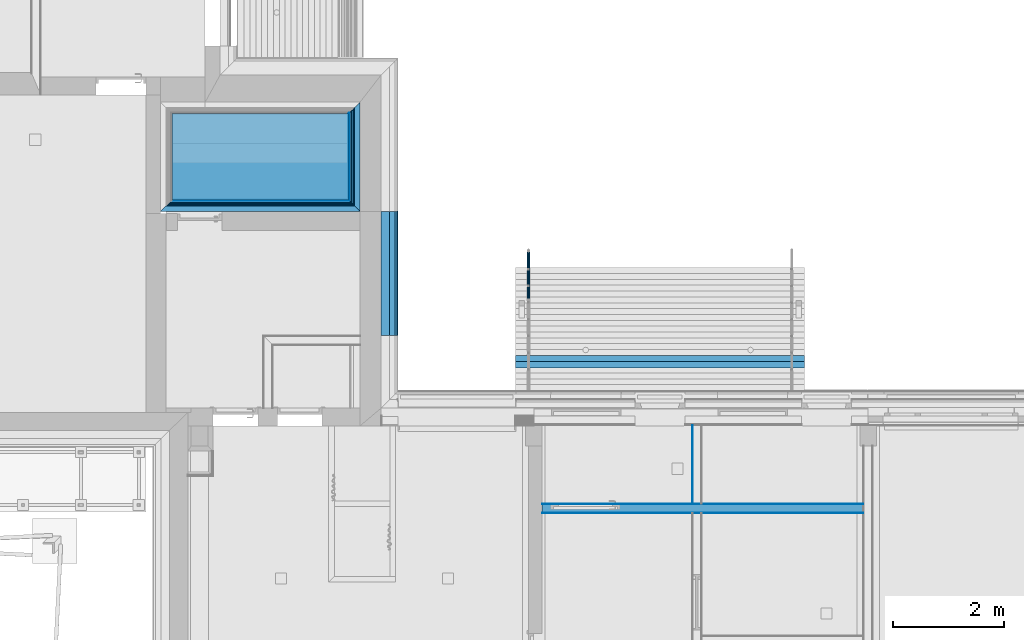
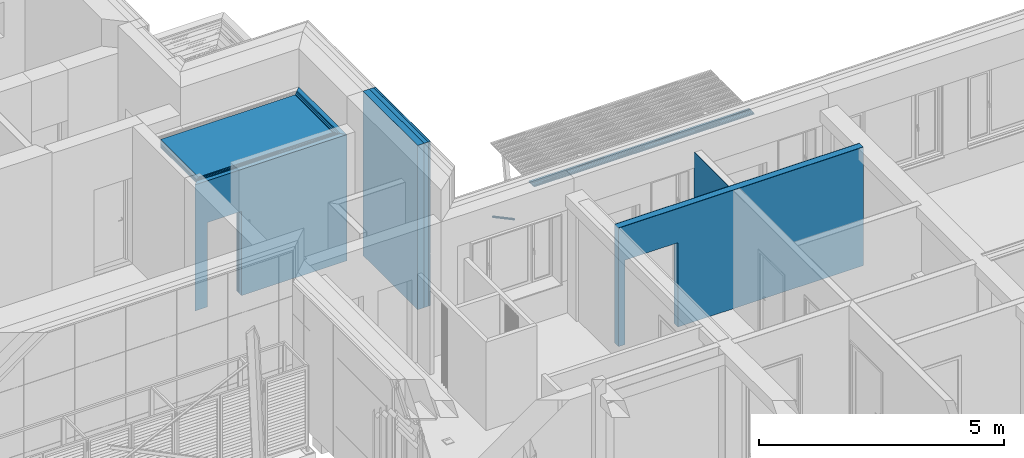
# One storey, part 34 of 418: 26 building element parts, 6 openings, 9 elements without a shape of their own.
"""IFC2X3 building model written with IfcOpenShell, lengths in millimetres."""

from ifc_helpers import new_model, entity, si_unit, converted_unit, derived_unit, money_unit, direction, frame, origin_with_axes, origin_2d_with_axis, place, context, subcontext, project, spatial, polyline, rectangle, outline, extrude, faceted_brep, source, transform, mapped, material, type_object, element, aggregate, save


model = new_model("IFC2X3")

# Units and contexts
model_context = context("Model", 3, precision=0.01, world=origin_with_axes(), true_north=direction((0.0, 1.0)))
body_context = subcontext(model_context, "Body", "Model", "MODEL_VIEW")
ifc_project = project(units=[si_unit("LENGTHUNIT", "METRE", prefix="MILLI"), si_unit("AREAUNIT", "SQUARE_METRE"), si_unit("VOLUMEUNIT", "CUBIC_METRE"), converted_unit("PLANEANGLEUNIT", "DEGREE", entity("IfcPlaneAngleMeasure", 0.0174532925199), si_unit("PLANEANGLEUNIT", "RADIAN"), dimensions=[0, 0, 0, 0, 0, 0, 0]), si_unit("SOLIDANGLEUNIT", "STERADIAN"), money_unit("EUR"), converted_unit("TIMEUNIT", "Year", entity("IfcTimeMeasure", 31556926.0), si_unit("TIMEUNIT", "SECOND"), dimensions=[0, 0, 1, 0, 0, 0, 0]), si_unit("MASSUNIT", "GRAM", prefix="KILO"), si_unit("THERMODYNAMICTEMPERATUREUNIT", "DEGREE_CELSIUS"), si_unit("LUMINOUSINTENSITYUNIT", "LUMEN"), si_unit("ENERGYUNIT", "JOULE", prefix="MEGA"), derived_unit("THERMALCONDUCTANCEUNIT", [(si_unit("POWERUNIT", "WATT"), 1), (si_unit("LENGTHUNIT", "METRE"), -1), (si_unit("THERMODYNAMICTEMPERATUREUNIT", "KELVIN"), -1)]), derived_unit("SPECIFICHEATCAPACITYUNIT", [(si_unit("ENERGYUNIT", "JOULE"), 1), (si_unit("MASSUNIT", "GRAM", prefix="KILO"), -1), (si_unit("THERMODYNAMICTEMPERATUREUNIT", "KELVIN"), -1)]), derived_unit("MASSDENSITYUNIT", [(si_unit("MASSUNIT", "GRAM", prefix="KILO"), 1), (si_unit("VOLUMEUNIT", "CUBIC_METRE"), -1)])], contexts=[model_context])

# Site, building, storey
site_placement = place(None, origin_with_axes())
site = spatial("IfcSite", under=ifc_project, at=site_placement, Name="Paldiski mnt 245/1, Tallinn, Harjumaa", CompositionType="COMPLEX")
building_placement = place(site_placement, origin_with_axes())
building = spatial("IfcBuilding", under=site, at=building_placement, Name="RKAS Hoone üldnimetus (kasutust iseloomustav) -> IFC Project Manager -> SOLIBRI", CompositionType="ELEMENT")
storey_placement = place(building_placement, origin_with_axes())
storey = spatial("IfcBuildingStorey", under=building, at=storey_placement, Name="Esimene korrus", CompositionType="ELEMENT", Elevation=0.0)

# Proxies, building element part
building_element_proxy_type_1 = type_object("IfcBuildingElementProxyType", Name="Railing Type", PredefinedType="NOTDEFINED")
proxy_1_placement = place(storey_placement, frame((-41536.0, 460.000000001, -500.846302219), z_axis=(0.0, 0.0, 1.0), x_axis=(1.0, 0.0, 0.0)))
proxy_1 = element("IfcBuildingElementProxy", 1, at=proxy_1_placement, inside=storey, type_object=building_element_proxy_type_1, Name="Trepipiire")
building_element_proxy_type_2 = type_object("IfcBuildingElementProxyType", Name="IfcBuildingElementProxy", PredefinedType="NOTDEFINED")
proxy_2_placement = place(proxy_1_placement, frame((0.0, 2144.92080789, 944.098300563), z_axis=(0.0, 0.0, 1.0), x_axis=(1.0, 0.0, 0.0)))
proxy_2 = element("IfcBuildingElementProxy", 2, at=proxy_2_placement, type_object=building_element_proxy_type_2, Name="ÜL PIIRE - 001")
aggregate(proxy_1, [proxy_2])
ifc_material_1 = material(Name="RAL7016")
shared_shape = source(origin_with_axes(), body_context, "Body", "Brep", [
    faceted_brep([(20.1885589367, 36.5444606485, 948.101991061), (20.5, 38.2216041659, 951.241939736), (20.5, 887.611065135, 497.556807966), (20.1885589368, 885.812724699, 494.481594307), (24.6201938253, 36.1763071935, 947.412734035), (25.0, 38.2216041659, 951.241939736), (24.6201938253, 40.2669011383, 955.071145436), (23.4923155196, 42.2500527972, 958.78400266), (21.6506350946, 44.1108020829, 962.267698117), (19.151111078, 45.79261107, 965.416381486), (16.0696902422, 47.2443788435, 968.134381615), (12.5, 48.4219941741, 970.339113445), (8.55050358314, 49.2896758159, 971.963587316), (4.34120444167, 49.8210597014, 972.95844441), (0.0, 50.0, 973.293456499), (-4.34120444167, 49.8210597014, 972.95844441), (-8.55050358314, 49.2896758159, 971.963587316), (-12.5, 48.4219941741, 970.339113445), (-16.0696902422, 47.2443788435, 968.134381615), (-19.151111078, 45.79261107, 965.416381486), (-21.6506350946, 44.1108020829, 962.267698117), (-23.4923155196, 42.2500527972, 958.78400266), (-24.6201938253, 40.2669011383, 955.071145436), (-25.0, 38.2216041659, 951.241939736), (-24.6201938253, 36.1763071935, 947.412734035), (-23.4923155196, 34.1931555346, 943.699876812), (-21.6506350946, 32.3324062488, 940.216181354), (-19.151111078, 30.6505972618, 937.067497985), (-16.0696902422, 29.1988294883, 934.349497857), (-12.5, 28.0212141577, 932.144766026), (-8.55050358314, 27.1535325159, 930.520292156), (-4.34120444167, 26.6221486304, 929.525435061), (0.0, 26.4432083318, 929.190422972), (4.34120444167, 26.6221486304, 929.525435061), (8.55050358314, 27.1535325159, 930.520292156), (12.5, 28.0212141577, 932.144766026), (16.0696902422, 29.1988294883, 934.349497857), (19.151111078, 30.6505972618, 937.067497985), (21.6506350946, 32.3324062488, 940.216181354), (23.4923155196, 34.1931555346, 943.699876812), (20.1885589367, 39.8987476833, 954.38188841), (19.2636987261, 34.9182762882, 945.057448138), (17.7535207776, 33.3924618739, 942.200817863), (15.7039110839, 32.0133785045, 939.6188975), (13.1771459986, 30.8229289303, 937.390137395), (10.25, 29.8572843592, 935.582257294), (7.01141293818, 29.1457854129, 934.25018872), (3.55978764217, 28.7100506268, 933.434405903), (0.0, 28.5633195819, 933.159695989), (-3.55978764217, 28.7100506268, 933.434405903), (-7.01141293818, 29.1457854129, 934.25018872), (-10.25, 29.8572843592, 935.582257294), (-13.1771459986, 30.8229289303, 937.390137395), (-15.7039110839, 32.0133785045, 939.6188975), (-17.7535207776, 33.3924618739, 942.200817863), (-19.2636987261, 34.9182762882, 945.057448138), (-20.1885589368, 36.5444606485, 948.101991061), (-20.5, 38.2216041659, 951.241939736), (-20.1885589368, 39.8987476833, 954.38188841), (-19.2636987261, 41.5249320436, 957.426431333), (-17.7535207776, 43.0507464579, 960.283061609), (-15.7039110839, 44.4298298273, 962.864981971), (-13.1771459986, 45.6202794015, 965.093742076), (-10.25, 46.5859239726, 966.901622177), (-7.01141293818, 47.2974229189, 968.233690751), (-3.55978764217, 47.733157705, 969.049473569), (0.0, 47.8798887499, 969.324183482), (3.55978764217, 47.733157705, 969.049473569), (7.01141293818, 47.2974229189, 968.233690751), (10.25, 46.5859239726, 966.901622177), (13.1771459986, 45.6202794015, 965.093742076), (15.7039110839, 44.4298298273, 962.864981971), (17.7535207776, 43.0507464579, 960.283061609), (19.2636987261, 41.5249320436, 957.426431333), (20.1885589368, 889.409405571, 500.632021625), (-21.6506350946, 881.296290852, 486.758363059), (-23.4923155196, 883.291505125, 490.170236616), (-24.6201938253, 885.417967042, 493.806547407), (-25.0, 887.611065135, 497.556807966), (-24.6201938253, 889.804163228, 501.307068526), (-23.4923155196, 891.930625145, 504.943379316), (-21.6506350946, 893.925839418, 508.355252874), (-19.1511110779, 895.729182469, 511.439021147), (-16.0696902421, 897.285860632, 514.100985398), (-12.5, 898.548575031, 516.260263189), (-8.55050358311, 899.478958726, 517.851245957), (-4.34120444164, 900.048742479, 518.825592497), (0.0, 900.2406137, 519.153697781), (4.3412044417, 900.048742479, 518.825592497), (8.55050358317, 899.478958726, 517.851245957), (12.5, 898.548575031, 516.260263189), (16.0696902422, 897.285860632, 514.100985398), (19.151111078, 895.729182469, 511.439021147), (21.6506350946, 893.925839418, 508.355252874), (23.4923155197, 891.930625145, 504.943379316), (24.6201938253, 889.804163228, 501.307068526), (25.0, 887.611065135, 497.556807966), (24.6201938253, 885.417967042, 493.806547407), (23.4923155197, 883.291505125, 490.170236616), (21.6506350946, 881.296290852, 486.758363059), (19.151111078, 879.492947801, 483.674594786), (16.0696902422, 877.936269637, 481.012630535), (12.5, 876.673555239, 478.853352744), (8.55050358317, 875.743171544, 477.262369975), (4.3412044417, 875.173387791, 476.288023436), (0.0, 874.98151657, 475.959918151), (-4.34120444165, 875.173387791, 476.288023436), (-8.55050358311, 875.743171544, 477.262369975), (-12.5, 876.673555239, 478.853352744), (-16.0696902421, 877.936269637, 481.012630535), (-19.1511110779, 879.492947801, 483.674594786), (-17.7535207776, 892.789180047, 506.41153279), (-19.2636987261, 891.153104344, 503.613796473), (-20.1885589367, 889.409405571, 500.632021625), (-20.5, 887.611065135, 497.556807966), (-20.1885589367, 885.812724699, 494.481594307), (-19.2636987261, 884.069025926, 491.499819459), (-17.7535207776, 882.432950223, 488.702083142), (-15.7039110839, 880.954208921, 486.173393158), (-13.1771459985, 879.677732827, 483.990582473), (-10.25, 878.64230702, 482.219974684), (-7.01141293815, 877.879392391, 480.915368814), (-3.55978764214, 877.412169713, 480.116404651), (0.0, 877.254835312, 479.847358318), (3.5597876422, 877.412169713, 480.116404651), (7.0114129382, 877.879392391, 480.915368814), (10.25, 878.64230702, 482.219974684), (13.1771459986, 879.677732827, 483.990582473), (15.703911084, 880.954208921, 486.173393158), (17.7535207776, 882.432950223, 488.702083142), (19.2636987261, 884.069025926, 491.499819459), (19.2636987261, 891.153104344, 503.613796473), (17.7535207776, 892.789180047, 506.41153279), (15.703911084, 894.267921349, 508.940222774), (13.1771459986, 895.544397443, 511.12303346), (10.25, 896.57982325, 512.893641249), (7.0114129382, 897.342737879, 514.198247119), (3.5597876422, 897.809960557, 514.997211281), (0.0, 897.967294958, 515.266257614), (-3.55978764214, 897.809960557, 514.997211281), (-7.01141293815, 897.342737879, 514.198247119), (-10.25, 896.57982325, 512.893641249), (-13.1771459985, 895.544397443, 511.12303346), (-15.7039110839, 894.267921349, 508.940222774)], [[[0, 1, 2, 3]], [[4, 5, 6, 7, 8, 9, 10, 11, 12, 13, 14, 15, 16, 17, 18, 19, 20, 21, 22, 23, 24, 25, 26, 27, 28, 29, 30, 31, 32, 33, 34, 35, 36, 37, 38, 39], [40, 1, 0, 41, 42, 43, 44, 45, 46, 47, 48, 49, 50, 51, 52, 53, 54, 55, 56, 57, 58, 59, 60, 61, 62, 63, 64, 65, 66, 67, 68, 69, 70, 71, 72, 73]], [[1, 40, 74, 2]], [[75, 76, 77, 78, 79, 80, 81, 82, 83, 84, 85, 86, 87, 88, 89, 90, 91, 92, 93, 94, 95, 96, 97, 98, 99, 100, 101, 102, 103, 104, 105, 106, 107, 108, 109, 110], [111, 112, 113, 114, 115, 116, 117, 118, 119, 120, 121, 122, 123, 124, 125, 126, 127, 128, 129, 130, 3, 2, 74, 131, 132, 133, 134, 135, 136, 137, 138, 139, 140, 141, 142, 143]], [[41, 0, 3, 130]], [[5, 4, 97, 96]], [[6, 5, 96, 95]], [[7, 6, 95, 94]], [[8, 7, 94, 93]], [[9, 8, 93, 92]], [[10, 9, 92, 91]], [[11, 10, 91, 90]], [[12, 11, 90, 89]], [[13, 12, 89, 88]], [[14, 13, 88, 87]], [[15, 14, 87, 86]], [[16, 15, 86, 85]], [[17, 16, 85, 84]], [[18, 17, 84, 83]], [[19, 18, 83, 82]], [[20, 19, 82, 81]], [[21, 20, 81, 80]], [[22, 21, 80, 79]], [[23, 22, 79, 78]], [[24, 23, 78, 77]], [[25, 24, 77, 76]], [[26, 25, 76, 75]], [[27, 26, 75, 110]], [[28, 27, 110, 109]], [[29, 28, 109, 108]], [[30, 29, 108, 107]], [[31, 30, 107, 106]], [[32, 31, 106, 105]], [[33, 32, 105, 104]], [[34, 33, 104, 103]], [[35, 34, 103, 102]], [[36, 35, 102, 101]], [[37, 36, 101, 100]], [[38, 37, 100, 99]], [[39, 38, 99, 98]], [[4, 39, 98, 97]], [[42, 41, 130, 129]], [[43, 42, 129, 128]], [[44, 43, 128, 127]], [[45, 44, 127, 126]], [[46, 45, 126, 125]], [[47, 46, 125, 124]], [[48, 47, 124, 123]], [[49, 48, 123, 122]], [[50, 49, 122, 121]], [[51, 50, 121, 120]], [[52, 51, 120, 119]], [[53, 52, 119, 118]], [[54, 53, 118, 117]], [[55, 54, 117, 116]], [[56, 55, 116, 115]], [[57, 56, 115, 114]], [[58, 57, 114, 113]], [[59, 58, 113, 112]], [[60, 59, 112, 111]], [[61, 60, 111, 143]], [[62, 61, 143, 142]], [[63, 62, 142, 141]], [[64, 63, 141, 140]], [[65, 64, 140, 139]], [[66, 65, 139, 138]], [[67, 66, 138, 137]], [[68, 67, 137, 136]], [[69, 68, 136, 135]], [[70, 69, 135, 134]], [[71, 70, 134, 133]], [[72, 71, 133, 132]], [[73, 72, 132, 131]], [[40, 73, 131, 74]]]),
])
building_element_part_1_placement = place(proxy_2_placement, origin_with_axes())
building_element_part_1 = element("IfcBuildingElementPart", 3, at=building_element_part_1_placement, material=ifc_material_1, Name="RAL7016", context=body_context, shape_type="MappedRepresentation", body=[
    mapped(shared_shape, transform((0.0, -475.12030685, -463.251998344))),
])
aggregate(proxy_2, [building_element_part_1])

# Wall, opening, building element parts
wall_type_1 = type_object("IfcWallType", Name="SS-04 170", PredefinedType="NOTDEFINED")
wall_1_placement = place(storey_placement, frame((-35440.0, -1675.0, 0.0), z_axis=(0.0, 0.0, 1.0), x_axis=(-1.0, 0.0, 0.0)))
wall_1 = element("IfcWall", 4, at=wall_1_placement, inside=storey, type_object=wall_type_1, Name="SS-04")
opening_1_placement = place(wall_1_placement, frame((5075.00000975, -1.14130926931e-10, 0.0), z_axis=(0.0, 0.0, 1.0), x_axis=(1.0, 0.0, 0.0)))
element("IfcOpeningElement", 5, at=opening_1_placement, cuts=wall_1, Name="SU-01p", context=body_context, shape_type="SweptSolid", body=[
    extrude(rectangle(XDim=1250.0, YDim=2100.0, at=origin_2d_with_axis()), frame((0.0, -64.9999999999, 1050.0), z_axis=(0.0, -1.0, 0.0), x_axis=(1.0, 0.0, 0.0)), (0.0, 0.0, 1.0), 275.0),
    extrude(rectangle(XDim=1250.0, YDim=2100.0, at=origin_2d_with_axis()), frame((0.0, -64.9999999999, 1050.0), z_axis=(0.0, 1.0, 0.0), x_axis=(1.0, 0.0, 0.0)), (0.0, 0.0, 1.0), 235.0),
])
ifc_material_2 = material(Name="Krohv")
building_element_part_2_placement = place(wall_1_placement, origin_with_axes())
building_element_part_2 = element("IfcBuildingElementPart", 6, at=building_element_part_2_placement, material=ifc_material_2, Name="Krohv", context=body_context, shape_type="SweptSolid", body=[
    extrude(outline(polyline([(85.0, -10.0), (5850.0, -10.0), (5850.0, 0.0), (85.0, 0.0), (85.0, -10.0)])), origin_with_axes(), (0.0, 0.0, 1.0), 2950.0),
])
ifc_material_3 = material(Name="FIBO 5")
building_element_part_3_placement = place(wall_1_placement, origin_with_axes())
building_element_part_3 = element("IfcBuildingElementPart", 7, at=building_element_part_3_placement, material=ifc_material_3, Name="FIBO 5", context=body_context, shape_type="SweptSolid", body=[
    extrude(outline(polyline([(85.0, -160.0), (5850.0, -160.0), (5850.0, -10.0), (85.0, -10.0), (85.0, -160.0)])), origin_with_axes(), (0.0, 0.0, 1.0), 2950.0),
])
building_element_part_4_placement = place(wall_1_placement, origin_with_axes())
building_element_part_4 = element("IfcBuildingElementPart", 8, at=building_element_part_4_placement, material=ifc_material_2, Name="Krohv", context=body_context, shape_type="SweptSolid", body=[
    extrude(outline(polyline([(85.0, -170.0), (5850.0, -170.0), (5850.0, -160.0), (85.0, -160.0), (85.0, -170.0)])), origin_with_axes(), (0.0, 0.0, 1.0), 2950.0),
])
aggregate(wall_1, [building_element_part_2, building_element_part_3, building_element_part_4])

# Wall, building element part
wall_2_placement = place(storey_placement, frame((-38430.0000894, -99.9999999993, 0.0), z_axis=(0.0, 0.0, 1.0), x_axis=(0.0, -1.0, 0.0)))
wall_2 = element("IfcWall", 9, at=wall_2_placement, inside=storey, type_object=wall_type_1, Name="SS-04")
building_element_part_5_placement = place(wall_2_placement, origin_with_axes())
building_element_part_5 = element("IfcBuildingElementPart", 10, at=building_element_part_5_placement, material=ifc_material_2, Name="Krohv", context=body_context, shape_type="SweptSolid", body=[
    extrude(outline(polyline([(0.0, -170.0), (1405.0, -170.0), (1405.0, -160.0), (0.0, -160.0), (0.0, -170.0)])), origin_with_axes(), (0.0, 0.0, 1.0), 2950.0),
])
aggregate(wall_2, [building_element_part_5])

# Wall, openings, building element parts
wall_type_2 = type_object("IfcWallType", Name="VS-03M_uued_kihid 300", PredefinedType="NOTDEFINED")
wall_3_placement = place(storey_placement, frame((-44180.5504586, 1509.82872435, 0.0), z_axis=(0.0, 0.0, 1.0), x_axis=(0.0, 1.0, 0.0)))
wall_3 = element("IfcWall", 11, at=wall_3_placement, inside=storey, type_object=wall_type_2, Name="VS-03")
opening_2_placement = place(wall_3_placement, frame((1376.0, 0.0, 0.0), z_axis=(0.0, 0.0, 1.0), x_axis=(1.0, 0.0, 0.0)))
element("IfcOpeningElement", 12, at=opening_2_placement, cuts=wall_3, Name="Cembrit fassaadiplaadi vuuk", context=body_context, shape_type="SweptSolid", body=[
    extrude(outline(polyline([(-3.99999999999, 0.0), (4.00000000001, 0.0), (4.00000000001, 4090.0), (-3.99999999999, 4090.0), (-3.99999999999, 0.0)])), frame((0.0, -292.0, 0.0), z_axis=(0.0, 1.0, 0.0), x_axis=(-1.0, 0.0, 0.0)), (0.0, 0.0, -1.0), 308.0),
])
opening_3_placement = place(wall_3_placement, frame((176.0, 0.0, 0.0), z_axis=(0.0, 0.0, 1.0), x_axis=(1.0, 0.0, 0.0)))
element("IfcOpeningElement", 13, at=opening_3_placement, cuts=wall_3, Name="Cembrit fassaadiplaadi vuuk", context=body_context, shape_type="SweptSolid", body=[
    extrude(outline(polyline([(-3.99999999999, 0.0), (4.00000000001, 0.0), (4.00000000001, 4090.0), (-3.99999999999, 4090.0), (-3.99999999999, 0.0)])), frame((0.0, -292.0, 0.0), z_axis=(0.0, 1.0, 0.0), x_axis=(-1.0, 0.0, 0.0)), (0.0, 0.0, -1.0), 308.0),
])
opening_4_placement = place(wall_3_placement, frame((1880.08569722, 0.0, 2990.0), z_axis=(0.0, 0.0, 1.0), x_axis=(1.0, 0.0, 0.0)))
element("IfcOpeningElement", 14, at=opening_4_placement, cuts=wall_3, Name="Cembrit fassaadiplaadi vuuk", context=body_context, shape_type="SweptSolid", body=[
    extrude(outline(polyline([(-3099.91430278, 0.0), (3099.91430278, 0.0), (3099.91430278, 8.0), (-3099.91430278, 8.0), (-3099.91430278, 0.0)])), frame((0.0, -292.0, 0.0), z_axis=(0.0, 1.0, 0.0), x_axis=(-1.0, 0.0, 0.0)), (0.0, 0.0, -1.0), 308.0),
])
opening_5_placement = place(wall_3_placement, frame((1880.08568735, 0.0, 1298.0), z_axis=(0.0, 0.0, 1.0), x_axis=(1.0, 0.0, 0.0)))
element("IfcOpeningElement", 15, at=opening_5_placement, cuts=wall_3, Name="Cembrit fassaadiplaadi vuuk", context=body_context, shape_type="SweptSolid", body=[
    extrude(outline(polyline([(-3099.91431265, 0.0), (3099.91431265, 0.0), (3099.91431265, 8.0), (-3099.91431265, 8.0), (-3099.91431265, 0.0)])), frame((0.0, -292.0, 0.0), z_axis=(0.0, 1.0, 0.0), x_axis=(-1.0, 0.0, 0.0)), (0.0, 0.0, -1.0), 308.0),
])
ifc_material_4 = material(Name="Cembrit_C020")
building_element_part_6_placement = place(wall_3_placement, origin_with_axes())
building_element_part_6 = element("IfcBuildingElementPart", 16, at=building_element_part_6_placement, material=ifc_material_4, Name="Cembrit_C020", context=body_context, shape_type="SweptSolid", body=[
    extrude(outline(polyline([(0.0, -300.0), (2230.0, -300.0), (2230.0, -292.0), (0.0, -292.0), (0.0, -300.0)])), origin_with_axes(), (0.0, 0.0, 1.0), 4090.0),
])
ifc_material_5 = material(Name="VKR-06_Õhkvahe")
building_element_part_7_placement = place(wall_3_placement, origin_with_axes())
building_element_part_7 = element("IfcBuildingElementPart", 17, at=building_element_part_7_placement, material=ifc_material_5, Name="VKR-06_Õhkvahe", context=body_context, shape_type="SweptSolid", body=[
    extrude(outline(polyline([(0.0, -292.0), (2230.0, -292.0), (2230.0, -250.0), (0.0, -250.0), (0.0, -292.0)])), origin_with_axes(), (0.0, 0.0, 1.0), 4090.0),
])
ifc_material_6 = material(Name="Kingspan Kooltherm")
building_element_part_8_placement = place(wall_3_placement, origin_with_axes())
building_element_part_8 = element("IfcBuildingElementPart", 18, at=building_element_part_8_placement, material=ifc_material_6, Name="Kingspan Kooltherm", context=body_context, shape_type="SweptSolid", body=[
    extrude(outline(polyline([(0.0, -250.0), (2230.0, -250.0), (2230.0, -150.0), (0.0, -150.0), (0.0, -250.0)])), origin_with_axes(), (0.0, 0.0, 1.0), 4090.0),
])
building_element_part_9_placement = place(wall_3_placement, origin_with_axes())
building_element_part_9 = element("IfcBuildingElementPart", 19, at=building_element_part_9_placement, material=ifc_material_6, Name="Kingspan Kooltherm", context=body_context, shape_type="SweptSolid", body=[
    extrude(outline(polyline([(0.0, -150.0), (2230.0, -150.0), (2230.0, 0.0), (0.0, 0.0), (0.0, -150.0)])), origin_with_axes(), (0.0, 0.0, 1.0), 4090.0),
])
aggregate(wall_3, [building_element_part_6, building_element_part_7, building_element_part_8, building_element_part_9])

# Wall, opening, building element parts
wall_type_3 = type_object("IfcWallType", Name="SS-12 sisekihid 207", PredefinedType="NOTDEFINED")
wall_4_placement = place(storey_placement, frame((-47933.0, 3946.82872435, 0.0), z_axis=(0.0, 0.0, 1.0), x_axis=(1.0, 0.0, 0.0)))
wall_4 = element("IfcWall", 20, at=wall_4_placement, inside=storey, type_object=wall_type_3, Name="SS-12")
opening_6_placement = place(wall_4_placement, frame((493.0, 0.0, 0.0), z_axis=(0.0, 0.0, 1.0), x_axis=(1.0, 0.0, 0.0)))
element("IfcOpeningElement", 21, at=opening_6_placement, cuts=wall_4, Name="Siseuks", context=body_context, shape_type="SweptSolid", body=[
    extrude(rectangle(XDim=800.0, YDim=2100.0, at=origin_2d_with_axis()), frame((0.0, -180.0, 1050.0), z_axis=(0.0, -1.0, 0.0), x_axis=(1.0, 0.0, 0.0)), (0.0, 0.0, -1.0), 387.0),
    extrude(rectangle(XDim=800.0, YDim=2100.0, at=origin_2d_with_axis()), frame((0.0, -180.0, 1050.0), z_axis=(0.0, 1.0, 0.0), x_axis=(1.0, 0.0, 0.0)), (0.0, 0.0, -1.0), 387.0),
])
ifc_material_7 = material(Name="Isover Premium 33")
building_element_part_10_placement = place(wall_4_placement, origin_with_axes())
building_element_part_10 = element("IfcBuildingElementPart", 22, at=building_element_part_10_placement, material=ifc_material_7, Name="Isover Premium 33", context=body_context, shape_type="SweptSolid", body=[
    extrude(outline(polyline([(-207.0, -207.0), (3372.44954137, -207.0), (3272.44954137, -107.0), (-107.0, -107.0), (-207.0, -207.0)])), origin_with_axes(), (0.0, 0.0, 1.0), 3141.80696097),
])
ifc_material_8 = material(Name="Isover Sauna")
building_element_part_11_placement = place(wall_4_placement, origin_with_axes())
building_element_part_11 = element("IfcBuildingElementPart", 23, at=building_element_part_11_placement, material=ifc_material_8, Name="Isover Sauna", context=body_context, shape_type="SweptSolid", body=[
    extrude(outline(polyline([(-107.0, -107.0), (3272.44954137, -107.0), (3247.44954137, -82.0), (-82.0, -82.0), (-107.0, -107.0)])), origin_with_axes(), (0.0, 0.0, 1.0), 3141.80696097),
])
ifc_material_9 = material(Name="Õhkvahe/horisontpuitroov")
building_element_part_12_placement = place(wall_4_placement, origin_with_axes())
building_element_part_12 = element("IfcBuildingElementPart", 24, at=building_element_part_12_placement, material=ifc_material_9, Name="Õhkvahe/horisontpuitroov", context=body_context, shape_type="SweptSolid", body=[
    extrude(outline(polyline([(-82.0, -82.0), (3247.44954137, -82.0), (3215.44954137, -50.0), (-50.0, -50.0), (-82.0, -82.0)])), origin_with_axes(), (0.0, 0.0, 1.0), 3141.80696097),
])
ifc_material_10 = material(Name="Õhkvahe/vertpuitroov")
building_element_part_13_placement = place(wall_4_placement, origin_with_axes())
building_element_part_13 = element("IfcBuildingElementPart", 25, at=building_element_part_13_placement, material=ifc_material_10, Name="Õhkvahe/vertpuitroov", context=body_context, shape_type="SweptSolid", body=[
    extrude(outline(polyline([(-50.0, -50.0), (3215.44954137, -50.0), (3183.44954137, -18.0), (-18.0, -18.0), (-50.0, -50.0)])), origin_with_axes(), (0.0, 0.0, 1.0), 3141.80696097),
])
ifc_material_11 = material(Name="Sauna puitlaudis")
building_element_part_14_placement = place(wall_4_placement, origin_with_axes())
building_element_part_14 = element("IfcBuildingElementPart", 26, at=building_element_part_14_placement, material=ifc_material_11, Name="Sauna puitlaudis", context=body_context, shape_type="SweptSolid", body=[
    extrude(outline(polyline([(-18.0, -18.0), (3183.44954137, -18.0), (3165.44954137, 0.0), (0.0, 0.0), (-18.0, -18.0)])), origin_with_axes(), (0.0, 0.0, 1.0), 3141.80696097),
])
aggregate(wall_4, [building_element_part_10, building_element_part_11, building_element_part_12, building_element_part_13, building_element_part_14])

# Wall, building element parts
wall_type_4 = type_object("IfcWallType", Name="VS-07 sisekihid 207", PredefinedType="NOTDEFINED")
wall_5_placement = place(storey_placement, frame((-44767.5504586, 3946.82872435, 0.0), z_axis=(0.0, 0.0, 1.0), x_axis=(0.0, 1.0, 0.0)))
wall_5 = element("IfcWall", 27, at=wall_5_placement, inside=storey, type_object=wall_type_4, Name="VS-07")
building_element_part_15_placement = place(wall_5_placement, origin_with_axes())
building_element_part_15 = element("IfcBuildingElementPart", 28, at=building_element_part_15_placement, material=ifc_material_7, Name="Isover Premium 33", context=body_context, shape_type="SweptSolid", body=[
    extrude(outline(polyline([(-207.0, -207.0), (1753.17127565, -207.0), (1653.17127565, -107.0), (-107.0, -107.0), (-207.0, -207.0)])), origin_with_axes(), (0.0, 0.0, 1.0), 3141.80696097),
])
building_element_part_16_placement = place(wall_5_placement, origin_with_axes())
building_element_part_16 = element("IfcBuildingElementPart", 29, at=building_element_part_16_placement, material=ifc_material_8, Name="Isover Sauna", context=body_context, shape_type="SweptSolid", body=[
    extrude(outline(polyline([(-107.0, -107.0), (1653.17127565, -107.0), (1628.17127565, -82.0), (-82.0, -82.0), (-107.0, -107.0)])), origin_with_axes(), (0.0, 0.0, 1.0), 3141.80696097),
])
building_element_part_17_placement = place(wall_5_placement, origin_with_axes())
building_element_part_17 = element("IfcBuildingElementPart", 30, at=building_element_part_17_placement, material=ifc_material_9, Name="Õhkvahe/horisontpuitroov", context=body_context, shape_type="SweptSolid", body=[
    extrude(outline(polyline([(-82.0, -82.0), (1628.17127565, -82.0), (1596.17127565, -50.0), (-50.0, -50.0), (-82.0, -82.0)])), origin_with_axes(), (0.0, 0.0, 1.0), 3141.80696097),
])
building_element_part_18_placement = place(wall_5_placement, origin_with_axes())
building_element_part_18 = element("IfcBuildingElementPart", 31, at=building_element_part_18_placement, material=ifc_material_10, Name="Õhkvahe/vertpuitroov", context=body_context, shape_type="SweptSolid", body=[
    extrude(outline(polyline([(-50.0, -50.0), (1596.17127565, -50.0), (1564.17127565, -18.0), (-18.0, -18.0), (-50.0, -50.0)])), origin_with_axes(), (0.0, 0.0, 1.0), 3141.80696097),
])
building_element_part_19_placement = place(wall_5_placement, origin_with_axes())
building_element_part_19 = element("IfcBuildingElementPart", 32, at=building_element_part_19_placement, material=ifc_material_11, Name="Sauna puitlaudis", context=body_context, shape_type="SweptSolid", body=[
    extrude(outline(polyline([(-18.0, -18.0), (1564.17127565, -18.0), (1546.17127565, 0.0), (0.0, 0.0), (-18.0, -18.0)])), origin_with_axes(), (0.0, 0.0, 1.0), 3141.80696097),
])
aggregate(wall_5, [building_element_part_15, building_element_part_16, building_element_part_17, building_element_part_18, building_element_part_19])

# Slab, building element parts
slab_type = type_object("IfcSlabType", Name="KL-04 sisekihid 207", PredefinedType="ROOF")
slab_placement = place(storey_placement, frame((-47933.0, 3946.82872435, 3141.80696097), z_axis=(0.0, 0.0, 1.0), x_axis=(1.0, 0.0, 0.0)))
slab = element("IfcSlab", 33, at=slab_placement, inside=storey, type_object=slab_type, Name="KL-04", PredefinedType="ROOF")
building_element_part_20_placement = place(slab_placement, origin_with_axes())
building_element_part_20 = element("IfcBuildingElementPart", 34, at=building_element_part_20_placement, material=ifc_material_11, Name="Sauna puitlaudis", context=body_context, shape_type="SweptSolid", body=[
    extrude(outline(polyline([(0.0, 0.0), (3165.44954137, 0.0), (3165.44954137, 1546.17127565), (0.0, 1546.17127565), (0.0, 0.0)])), frame((0.0, 0.0, -207.0), z_axis=(0.0, 0.0, 1.0), x_axis=(1.0, 0.0, 0.0)), (0.0, 0.0, 1.0), 18.0),
])
building_element_part_21_placement = place(slab_placement, origin_with_axes())
building_element_part_21 = element("IfcBuildingElementPart", 35, at=building_element_part_21_placement, material=ifc_material_10, Name="Õhkvahe/vertpuitroov", context=body_context, shape_type="SweptSolid", body=[
    extrude(outline(polyline([(0.0, 0.0), (3165.44954137, 0.0), (3165.44954137, 1546.17127565), (0.0, 1546.17127565), (0.0, 0.0)])), frame((0.0, 0.0, -189.0), z_axis=(0.0, 0.0, 1.0), x_axis=(1.0, 0.0, 0.0)), (0.0, 0.0, 1.0), 32.0),
])
building_element_part_22_placement = place(slab_placement, origin_with_axes())
building_element_part_22 = element("IfcBuildingElementPart", 36, at=building_element_part_22_placement, material=ifc_material_9, Name="Õhkvahe/horisontpuitroov", context=body_context, shape_type="SweptSolid", body=[
    extrude(outline(polyline([(0.0, 0.0), (3165.44954137, 0.0), (3165.44954137, 1546.17127565), (0.0, 1546.17127565), (0.0, 0.0)])), frame((0.0, 0.0, -157.0), z_axis=(0.0, 0.0, 1.0), x_axis=(1.0, 0.0, 0.0)), (0.0, 0.0, 1.0), 32.0),
])
building_element_part_23_placement = place(slab_placement, origin_with_axes())
building_element_part_23 = element("IfcBuildingElementPart", 37, at=building_element_part_23_placement, material=ifc_material_8, Name="Isover Sauna", context=body_context, shape_type="SweptSolid", body=[
    extrude(outline(polyline([(0.0, 0.0), (3165.44954137, 0.0), (3165.44954137, 1546.17127565), (0.0, 1546.17127565), (0.0, 0.0)])), frame((0.0, 0.0, -125.0), z_axis=(0.0, 0.0, 1.0), x_axis=(1.0, 0.0, 0.0)), (0.0, 0.0, 1.0), 25.0),
])
building_element_part_24_placement = place(slab_placement, origin_with_axes())
building_element_part_24 = element("IfcBuildingElementPart", 38, at=building_element_part_24_placement, material=ifc_material_7, Name="Isover Premium 33", context=body_context, shape_type="SweptSolid", body=[
    extrude(outline(polyline([(0.0, 0.0), (3165.44954137, 0.0), (3165.44954137, 1546.17127565), (0.0, 1546.17127565), (0.0, 0.0)])), frame((0.0, 0.0, -100.0), z_axis=(0.0, 0.0, 1.0), x_axis=(1.0, 0.0, 0.0)), (0.0, 0.0, 1.0), 100.0),
])
aggregate(slab, [building_element_part_20, building_element_part_21, building_element_part_22, building_element_part_23, building_element_part_24])

# Proxy, building element parts
building_element_proxy_type_3 = type_object("IfcBuildingElementProxyType", Name="Varikatus_01_lagi laudis_01 2220 x 21", PredefinedType="NOTDEFINED")
proxy_3_placement = place(storey_placement, frame((-41771.4167035, 2729.57010493, 2580.99999904), z_axis=(0.0, 0.0, 1.0), x_axis=(1.0, 0.0, 0.0)))
proxy_3 = element("IfcBuildingElementProxy", 39, at=proxy_3_placement, inside=storey, type_object=building_element_proxy_type_3, Name="Varikatus")
ifc_material_12 = material(Name="Laudis 5072 Honka 45 horisontaalne raastas")
building_element_part_25_placement = place(proxy_3_placement, origin_with_axes())
building_element_part_25 = element("IfcBuildingElementPart", 40, at=building_element_part_25_placement, material=ifc_material_12, Name="Laudis 5072 Honka 45 horisontaalne raastas", context=body_context, shape_type="SweptSolid", body=[
    extrude(outline(polyline([(1594.8892637, -20.9999999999), (1694.88926339, -20.9999999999), (1694.88926384, -11.0000004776), (1674.88926426, -10.999999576), (1674.8892633, 1.61841207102e-07), (1660.31307622, 5.23587839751e-07), (1660.31307598, -6.99999898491), (1654.67240757, -6.9999996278), (1654.67240659, 8.83376927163e-07), (1639.84391423, -3.56279450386e-08), (1639.84391399, -6.99999954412), (1633.71697335, -6.99999997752), (1633.71697358, -4.69026151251e-07), (1618.77785641, -3.47777806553e-07), (1618.77785618, -6.99999985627), (1612.41535912, -6.99999955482), (1612.41535813, 9.56350110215e-07), (1574.88926361, 0.0), (1574.88926325, -10.4999992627), (1594.88926384, -10.499998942), (1594.8892637, -20.9999999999)])), frame((0.0, 0.0, 0.0), z_axis=(-1.0, 0.0, 0.0), x_axis=(0.0, -1.0, 0.0)), (0.0, 0.0, -1.0), 5189.74975038),
])
building_element_part_26_placement = place(proxy_3_placement, origin_with_axes())
building_element_part_26 = element("IfcBuildingElementPart", 41, at=building_element_part_26_placement, material=ifc_material_12, Name="Laudis 5072 Honka 45 horisontaalne raastas", context=body_context, shape_type="SweptSolid", body=[
    extrude(outline(polyline([(1699.8892637, -20.9999999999), (1799.88926339, -20.9999999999), (1799.88926384, -11.0000004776), (1779.88926426, -10.999999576), (1779.8892633, 1.61842983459e-07), (1765.31307622, 5.23587395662e-07), (1765.31307598, -6.99999898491), (1759.67240757, -6.9999996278), (1759.67240659, 8.8337337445e-07), (1744.84391423, -3.56310536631e-08), (1744.84391399, -6.99999954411), (1738.71697335, -6.99999997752), (1738.71697358, -4.69027483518e-07), (1723.77785641, -3.47778250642e-07), (1723.77785618, -6.99999985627), (1717.41535912, -6.99999955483), (1717.41535813, 9.56352330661e-07), (1679.88926361, 0.0), (1679.88926325, -10.4999992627), (1699.88926384, -10.499998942), (1699.8892637, -20.9999999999)])), frame((0.0, 0.0, 0.0), z_axis=(-1.0, 0.0, 0.0), x_axis=(0.0, -1.0, 0.0)), (0.0, 0.0, -1.0), 5189.74975038),
])
aggregate(proxy_3, [building_element_part_25, building_element_part_26])

save(model, "model.ifc")
